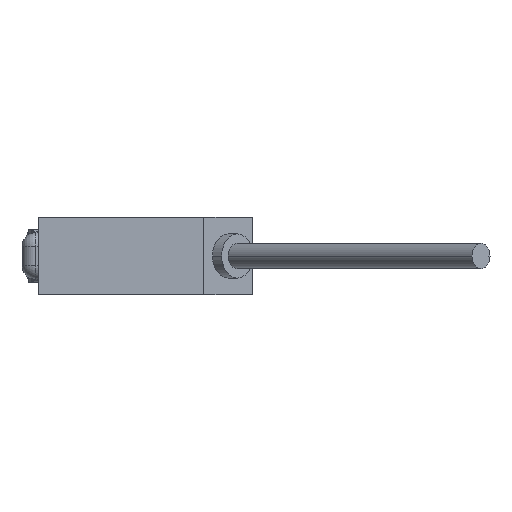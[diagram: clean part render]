
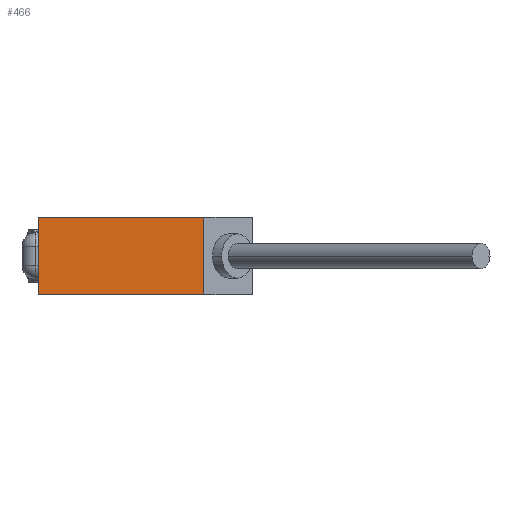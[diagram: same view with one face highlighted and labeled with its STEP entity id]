
A CAD part, left-side view. The second image highlights one B-rep face of the part: STEP entity #466.
In plain terms, the highlighted planar face has unit normal (-1, 0, 0) as drawn and (1, 0, 0) by its records, which use the part's own axes.
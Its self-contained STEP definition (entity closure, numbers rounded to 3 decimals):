
#449 = VERTEX_POINT ( 'NONE', #1571 ) ;
#460 = EDGE_CURVE ( 'NONE', #449, #463, #1631, .T. ) ;
#463 = VERTEX_POINT ( 'NONE', #1455 ) ;
#466 = ADVANCED_FACE ( 'NONE', ( #1440 ), #1439, .F. ) ;
#467 = EDGE_LOOP ( 'NONE', ( #468, #469, #471, #472 ) ) ;
#468 = ORIENTED_EDGE ( 'NONE', *, *, #460, .T. ) ;
#469 = ORIENTED_EDGE ( 'NONE', *, *, #470, .T. ) ;
#470 = EDGE_CURVE ( 'NONE', #463, #651, #1611, .T. ) ;
#471 = ORIENTED_EDGE ( 'NONE', *, *, #626, .F. ) ;
#472 = ORIENTED_EDGE ( 'NONE', *, *, #473, .F. ) ;
#473 = EDGE_CURVE ( 'NONE', #449, #653, #1607, .T. ) ;
#626 = EDGE_CURVE ( 'NONE', #653, #651, #1960, .T. ) ;
#651 = VERTEX_POINT ( 'NONE', #1995 ) ;
#653 = VERTEX_POINT ( 'NONE', #1994 ) ;
#1438 = AXIS2_PLACEMENT_3D ( 'NONE', #1614, #1613, #1612 ) ;
#1439 = PLANE ( 'NONE',  #1438 ) ;
#1440 = FACE_OUTER_BOUND ( 'NONE', #467, .T. ) ;
#1455 = CARTESIAN_POINT ( 'NONE',  ( 20., -24., -5.6 ) ) ;
#1461 = DIRECTION ( 'NONE',  ( 0., 0., -1. ) ) ;
#1462 = VECTOR ( 'NONE', #1461, 1000. ) ;
#1571 = CARTESIAN_POINT ( 'NONE',  ( 20., -24., 5.6 ) ) ;
#1604 = DIRECTION ( 'NONE',  ( 0., 1., 0. ) ) ;
#1605 = VECTOR ( 'NONE', #1604, 1000. ) ;
#1606 = CARTESIAN_POINT ( 'NONE',  ( 20., 0., 5.6 ) ) ;
#1607 = LINE ( 'NONE', #1606, #1605 ) ;
#1608 = DIRECTION ( 'NONE',  ( 0., 1., 0. ) ) ;
#1609 = VECTOR ( 'NONE', #1608, 1000. ) ;
#1610 = CARTESIAN_POINT ( 'NONE',  ( 20., 0., -5.6 ) ) ;
#1611 = LINE ( 'NONE', #1610, #1609 ) ;
#1612 = DIRECTION ( 'NONE',  ( 0., -1., 0. ) ) ;
#1613 = DIRECTION ( 'NONE',  ( -1., 0., 0. ) ) ;
#1614 = CARTESIAN_POINT ( 'NONE',  ( 20., 0., 5.6 ) ) ;
#1630 = CARTESIAN_POINT ( 'NONE',  ( 20., -24., 55.193 ) ) ;
#1631 = LINE ( 'NONE', #1630, #1462 ) ;
#1892 = VECTOR ( 'NONE', #1954, 1000. ) ;
#1893 = CARTESIAN_POINT ( 'NONE',  ( 20., 0., 5.6 ) ) ;
#1954 = DIRECTION ( 'NONE',  ( 0., 0., -1. ) ) ;
#1960 = LINE ( 'NONE', #1893, #1892 ) ;
#1994 = CARTESIAN_POINT ( 'NONE',  ( 20., 0., 5.6 ) ) ;
#1995 = CARTESIAN_POINT ( 'NONE',  ( 20., 0., -5.6 ) ) ;
